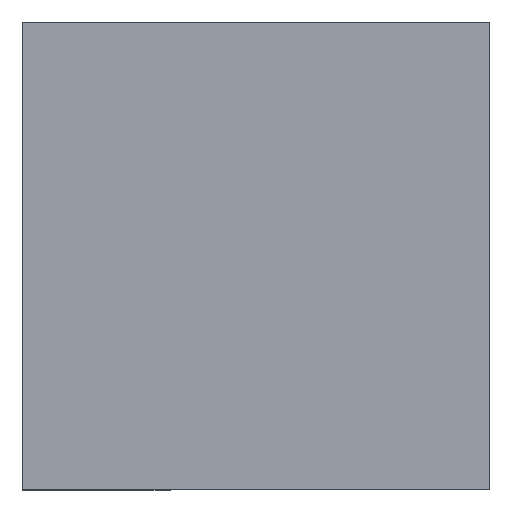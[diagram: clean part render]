
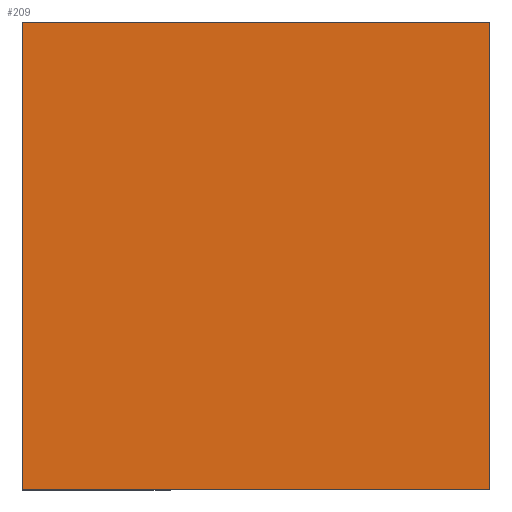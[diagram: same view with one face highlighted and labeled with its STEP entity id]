
A CAD part, top view. The second image highlights one B-rep face of the part: STEP entity #209.
In plain terms, the highlighted planar face has unit normal (0, 0, 1).
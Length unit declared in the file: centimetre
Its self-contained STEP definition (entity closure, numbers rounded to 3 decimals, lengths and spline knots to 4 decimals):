
#7 = LINE ( 'NONE', #41, #381 ) ;
#11 = VECTOR ( 'NONE', #44, 100. ) ;
#20 = ORIENTED_EDGE ( 'NONE', *, *, #357, .T. ) ;
#41 = CARTESIAN_POINT ( 'NONE',  ( 1000., 1000., 1000. ) ) ;
#44 = DIRECTION ( 'NONE',  ( 1., 0., 0. ) ) ;
#70 = CARTESIAN_POINT ( 'NONE',  ( 0., 1000., 1000. ) ) ;
#83 = VERTEX_POINT ( 'NONE', #248 ) ;
#94 = CARTESIAN_POINT ( 'NONE',  ( 1000., 0., 1000. ) ) ;
#101 = PLANE ( 'NONE',  #339 ) ;
#126 = CARTESIAN_POINT ( 'NONE',  ( 0., 1000., 1000. ) ) ;
#133 = DIRECTION ( 'NONE',  ( -1., 0., 0. ) ) ;
#135 = VECTOR ( 'NONE', #133, 100. ) ;
#137 = CARTESIAN_POINT ( 'NONE',  ( 0., 0., 1000. ) ) ;
#164 = ORIENTED_EDGE ( 'NONE', *, *, #287, .T. ) ;
#186 = EDGE_CURVE ( 'NONE', #201, #83, #427, .T. ) ;
#194 = CARTESIAN_POINT ( 'NONE',  ( 1000., 1000., 1000. ) ) ;
#201 = VERTEX_POINT ( 'NONE', #70 ) ;
#205 = ORIENTED_EDGE ( 'NONE', *, *, #186, .T. ) ;
#209 = ADVANCED_FACE ( 'NONE', ( #217 ), #101, .T. ) ;
#217 = FACE_OUTER_BOUND ( 'NONE', #231, .T. ) ;
#222 = DIRECTION ( 'NONE',  ( 0., 1., 0. ) ) ;
#231 = EDGE_LOOP ( 'NONE', ( #205, #164, #20, #415 ) ) ;
#244 = CARTESIAN_POINT ( 'NONE',  ( 0., 1000., 1000. ) ) ;
#248 = CARTESIAN_POINT ( 'NONE',  ( 0., 0., 1000. ) ) ;
#281 = DIRECTION ( 'NONE',  ( 0., -1., 0. ) ) ;
#287 = EDGE_CURVE ( 'NONE', #83, #461, #290, .T. ) ;
#290 = LINE ( 'NONE', #299, #11 ) ;
#299 = CARTESIAN_POINT ( 'NONE',  ( 0., 0., 1000. ) ) ;
#313 = VERTEX_POINT ( 'NONE', #194 ) ;
#323 = LINE ( 'NONE', #244, #135 ) ;
#339 = AXIS2_PLACEMENT_3D ( 'NONE', #137, #431, #366 ) ;
#357 = EDGE_CURVE ( 'NONE', #461, #313, #7, .T. ) ;
#366 = DIRECTION ( 'NONE',  ( 1., 0., 0. ) ) ;
#381 = VECTOR ( 'NONE', #222, 100. ) ;
#415 = ORIENTED_EDGE ( 'NONE', *, *, #416, .T. ) ;
#416 = EDGE_CURVE ( 'NONE', #313, #201, #323, .T. ) ;
#427 = LINE ( 'NONE', #126, #460 ) ;
#431 = DIRECTION ( 'NONE',  ( 0., 0., 1. ) ) ;
#460 = VECTOR ( 'NONE', #281, 100. ) ;
#461 = VERTEX_POINT ( 'NONE', #94 ) ;
